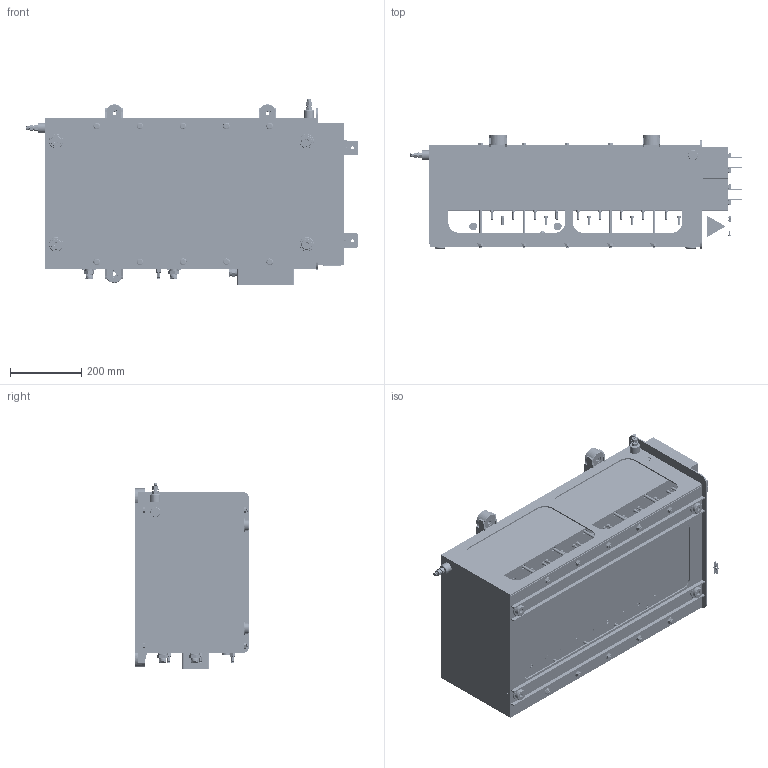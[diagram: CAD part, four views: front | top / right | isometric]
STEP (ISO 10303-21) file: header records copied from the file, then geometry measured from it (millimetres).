
FILE_DESCRIPTION (( 'STEP AP203' ), '1' );
FILE_NAME ('倳昃-3B IP21.STEP', '2024-04-06T06:29:39', ( '' ), ( '' ), 'SwSTEP 2.0', 'SolidWorks 2020', '' );
FILE_SCHEMA (( 'CONFIG_CONTROL_DESIGN' ));
Length unit declared in the file: millimetre
Products named in the file (1): 倳昃-3B IP21
Bounding box: 929.98 x 321 x 523.24 mm (x, y, z)
Volume: 61884277.1 mm3; surface area: 3934953.8 mm2
Topology: 190 solids, 264 shells, 10195 faces, 25142 edges, 15911 vertices
Faces by surface type: cylinder 4458, plane 3955, torus 710, cone 613, bspline 419, sphere 40
Entity records: 620302 total; most frequent: CARTESIAN_POINT 341653, ORIENTED_EDGE 60982, DIRECTION 55842, EDGE_CURVE 30491, AXIS2_PLACEMENT_3D 20668, VERTEX_POINT 19500, LINE 14506, VECTOR 14506
